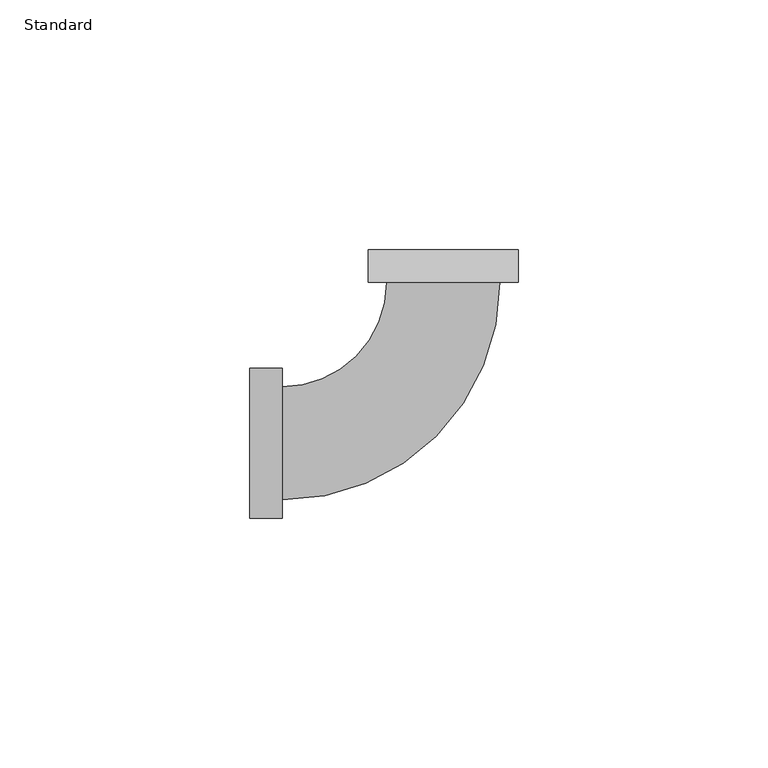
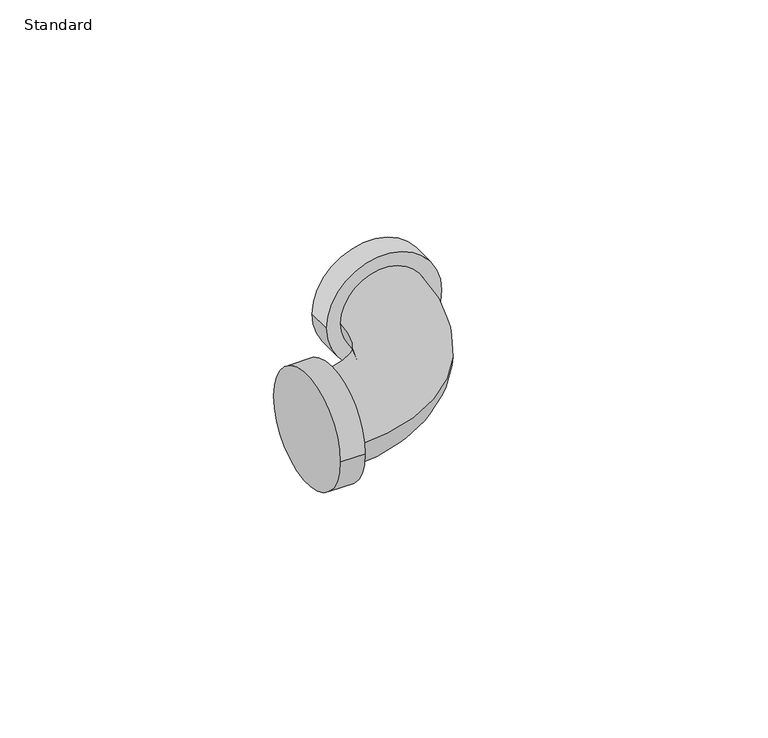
"""IFC4 building model written with IfcOpenShell, lengths in millimetres: pipe fitting geometry, Elbow_45_90-Lubrizol-CPVC-FlowGuard_MX : Standard."""

import ifcopenshell
import ifcopenshell.guid

model = None  # the IFC model being written
_history = None  # IfcOwnerHistory: only IFC2X3 demands one
_inside = {}  # id of a spatial element -> (the spatial element, [elements in it])
_under = {}  # id of a project, library or spatial element -> (it, [spatial elements below it])
_declared = {}  # id of a project -> (the project, [libraries it declares])
_typed = {}  # id of a type object -> (the type object, [elements of that type])
_made_of = {}  # id of a material, layer set ... -> (it, [elements and type objects made of it])


def new_model(schema):
    """Start an empty IFC model of exactly this schema.

    Asked for "IFC4X3", IfcOpenShell would pick the latest addendum, in which some entities
    have other attributes; the version numbers below select the first issue.
    IFC2X3 requires an IfcOwnerHistory on every rooted entity: one is made here for all.
    """
    global model, _history
    if schema == "IFC4X3":
        model = ifcopenshell.file(schema_version=(4, 3, 0, 0))
    else:
        model = ifcopenshell.file(schema=schema)
    _inside.clear()
    _under.clear()
    _declared.clear()
    _typed.clear()
    _made_of.clear()
    _history = None
    if model.schema == "IFC2X3":
        org = make("IfcOrganization", Name="unknown")
        user = make(
            "IfcPersonAndOrganization",
            ThePerson=make("IfcPerson", FamilyName="unknown"),
            TheOrganization=org,
        )
        app = make(
            "IfcApplication",
            ApplicationDeveloper=org,
            Version="unknown",
            ApplicationFullName="unknown",
            ApplicationIdentifier="unknown",
        )
        _history = make(
            "IfcOwnerHistory",
            OwningUser=user,
            OwningApplication=app,
            ChangeAction="ADDED",
            CreationDate=0,
        )
    return model


def make(cls, **values):
    """One entity of the class cls with the attributes given. An attribute that is None is left unset."""
    return model.create_entity(
        cls, **{name: value for name, value in values.items() if value is not None}
    )


def rooted(cls, **values):
    """An entity with a GlobalId (a new one), such as an element, a storey or a relation."""
    return make(cls, GlobalId=ifcopenshell.guid.new(), OwnerHistory=_history, **values)


def si_unit(unit_type, name, prefix=None):
    """IfcSIUnit, for example si_unit("LENGTHUNIT", "METRE", prefix="MILLI")."""
    return make("IfcSIUnit", UnitType=unit_type, Prefix=prefix, Name=name)


def assignment(units):
    """IfcUnitAssignment: the units of a project."""
    return None if units is None else make("IfcUnitAssignment", Units=units)


def point(xyz):
    """IfcCartesianPoint."""
    return None if xyz is None else make("IfcCartesianPoint", Coordinates=xyz)


def direction(xyz):
    """IfcDirection."""
    return None if xyz is None else make("IfcDirection", DirectionRatios=xyz)


def frame(location, z_axis=None, x_axis=None):
    """IfcAxis2Placement3D, a coordinate frame: its origin and axes. An axis left out is left unset."""
    return make(
        "IfcAxis2Placement3D",
        Location=point(location),
        Axis=direction(z_axis),
        RefDirection=direction(x_axis),
    )


def origin():
    """The frame at (0, 0, 0) with its axes left unset."""
    return frame((0.0, 0.0, 0.0))


def place(relative_to, where):
    """IfcLocalPlacement: puts the frame where relative to a parent placement (None: the world)."""
    return make(
        "IfcLocalPlacement", PlacementRelTo=relative_to, RelativePlacement=where
    )


def context(
    kind, dimensions, precision=None, world=None, true_north=None, identifier=None
):
    """IfcGeometricRepresentationContext, for example the 3D "Model" context."""
    return make(
        "IfcGeometricRepresentationContext",
        ContextIdentifier=identifier,
        ContextType=kind,
        CoordinateSpaceDimension=dimensions,
        Precision=precision,
        WorldCoordinateSystem=world,
        TrueNorth=true_north,
    )


def project(units=None, contexts=None):
    """IfcProject with its units and contexts."""
    return rooted(
        "IfcProject",
        Name="project",
        RepresentationContexts=contexts,
        UnitsInContext=assignment(units),
    )


def spatial(cls, under=None, at=None, **own):
    """A site, building, storey or space (cls), placed at a placement, below another one or the project."""
    s = rooted(cls, ObjectPlacement=at, **own)
    if under is not None:
        _under.setdefault(under.id(), (under, []))[1].append(s)
    return s


def circle_curve(where, radius):
    """IfcCircle in the frame where."""
    return make("IfcCircle", Position=where, Radius=radius)


def ellipse_curve(where, semi_axis1, semi_axis2):
    """IfcEllipse in the frame where."""
    return make(
        "IfcEllipse", Position=where, SemiAxis1=semi_axis1, SemiAxis2=semi_axis2
    )


def trimmed(basis, trim1, trim2, sense, master):
    """IfcTrimmedCurve: the piece of a basis curve between two trims."""
    return make(
        "IfcTrimmedCurve",
        BasisCurve=basis,
        Trim1=trim1,
        Trim2=trim2,
        SenseAgreement=sense,
        MasterRepresentation=master,
    )


def shape(context_of_items, identifier, shape_type, items):
    """IfcShapeRepresentation: the items that make up one representation, for example the "Body"."""
    return make(
        "IfcShapeRepresentation",
        ContextOfItems=context_of_items,
        RepresentationIdentifier=identifier,
        RepresentationType=shape_type,
        Items=items,
    )


def source(mapping_origin, context_of_items, identifier, shape_type, items):
    """IfcRepresentationMap: a shape defined once, which mapped items show again and again."""
    return make(
        "IfcRepresentationMap",
        MappingOrigin=mapping_origin,
        MappedRepresentation=shape(context_of_items, identifier, shape_type, items),
    )


def transform(
    local_origin,
    x_axis=None,
    y_axis=None,
    z_axis=None,
    scale=None,
    scale2=None,
    scale3=None,
    uniform=True,
):
    """IfcCartesianTransformationOperator3D, or its non-uniform kind. x_axis, y_axis, z_axis: its Axis1, 2, 3."""
    if uniform:
        return make(
            "IfcCartesianTransformationOperator3D",
            Axis1=direction(x_axis),
            Axis2=direction(y_axis),
            LocalOrigin=point(local_origin),
            Scale=scale,
            Axis3=direction(z_axis),
        )
    return make(
        "IfcCartesianTransformationOperator3DnonUniform",
        Axis1=direction(x_axis),
        Axis2=direction(y_axis),
        LocalOrigin=point(local_origin),
        Scale=scale,
        Axis3=direction(z_axis),
        Scale2=scale2,
        Scale3=scale3,
    )


def mapped(mapping_source, mapping_target):
    """IfcMappedItem: shows the shape of a source again, moved by a transform."""
    return make(
        "IfcMappedItem", MappingSource=mapping_source, MappingTarget=mapping_target
    )


def made_of(thing, what):
    """Note that an element or type object is made of a material, layer set ...; save() writes the relation."""
    if what is not None:
        _made_of.setdefault(what.id(), (what, []))[1].append(thing)
    return thing


def element(
    cls,
    number,
    at=None,
    inside=None,
    cuts=None,
    type_object=None,
    material=None,
    context=None,
    identifier="Body",
    shape_type=None,
    held_by="IfcProductDefinitionShape",
    body=None,
    shapes=None,
    **own,
):
    """One element of the class cls, such as IfcWall. Its Tag is "e" and its number.

    at: its placement. inside: the storey or other place that contains it. cuts: it is an
    opening in that element (IfcRelVoidsElement). A single representation is given by context,
    identifier, shape_type and body (its items); several are given by shapes. held_by: the class
    of the entity that holds the representations. save() writes the other relations.
    """
    e = rooted(cls, Tag="e%d" % number, ObjectPlacement=at, **own)
    if body is not None:
        shapes = [shape(context, identifier, shape_type, body)]
    if shapes is not None:
        e.Representation = make(held_by, Representations=shapes)
    if inside is not None:
        _inside.setdefault(inside.id(), (inside, []))[1].append(e)
    if cuts is not None:
        rooted(
            "IfcRelVoidsElement", RelatingBuildingElement=cuts, RelatedOpeningElement=e
        )
    if type_object is not None:
        _typed.setdefault(type_object.id(), (type_object, []))[1].append(e)
    return made_of(e, material)


def aggregate(whole, parts):
    """IfcRelAggregates: a whole, such as a stair, and the parts it consists of."""
    return rooted("IfcRelAggregates", RelatingObject=whole, RelatedObjects=parts)


def save(model, path):
    """Write the relations noted so far, then the file.

    IfcRelAggregates (storeys below a building ...), IfcRelContainedInSpatialStructure (elements
    in a storey), IfcRelDefinesByType, IfcRelAssociatesMaterial and IfcRelDeclares: one each for
    every whole, place, type object, material and project.
    """
    for whole, parts in _under.values():
        aggregate(whole, parts)
    for where, things in _inside.values():
        rooted(
            "IfcRelContainedInSpatialStructure",
            RelatedElements=things,
            RelatingStructure=where,
        )
    for kind, things in _typed.values():
        rooted("IfcRelDefinesByType", RelatedObjects=things, RelatingType=kind)
    for what, things in _made_of.values():
        rooted("IfcRelAssociatesMaterial", RelatedObjects=things, RelatingMaterial=what)
    for by, libraries in _declared.values():
        rooted("IfcRelDeclares", RelatingContext=by, RelatedDefinitions=libraries)
    model.write(path)


def plane_surface(at):
    """IfcPlane: the flat surface through the origin of the frame at, square to its z axis."""
    return make("IfcPlane", Position=at)


def cylinder_surface(at, radius):
    """IfcCylindricalSurface: all points at the distance radius from the z axis of the frame at."""
    return make("IfcCylindricalSurface", Position=at, Radius=radius)


def revolved_surface(curve, axis_point, axis_direction):
    """IfcSurfaceOfRevolution: the curve turned about the line through axis_point along axis_direction."""
    return make(
        "IfcSurfaceOfRevolution",
        SweptCurve=make("IfcArbitraryOpenProfileDef", ProfileType="CURVE", Curve=curve),
        AxisPosition=make("IfcAxis1Placement", Location=point(axis_point), Axis=direction(axis_direction)),
    )


def advanced_brep(points, edges, surfaces, faces):
    """IfcAdvancedBrep: a solid bounded by faces that lie on surfaces and meet in shared edges.

    An edge is (start, end): straight between two places in points (the first is 0);
    or (start, end, curve); or (start, end, curve, False) where it runs against its curve.
    A face is (place in surfaces, loops), or (place, loops, False) where it looks against
    its surface's normal. A loop lists edges by number (the first is 1), with a minus sign
    where the edge is run from its end to its start. The first loop is the outer one.
    """
    corners = [point(p) for p in points]
    vertices = [make("IfcVertexPoint", VertexGeometry=c) for c in corners]
    made = []
    for start, end, *more in edges:
        made.append(
            make(
                "IfcEdgeCurve",
                EdgeStart=vertices[start],
                EdgeEnd=vertices[end],
                EdgeGeometry=more[0] if more else make("IfcPolyline", Points=[corners[start], corners[end]]),
                SameSense=more[1] if len(more) > 1 else True,
            )
        )
    hull = []
    for where, loops, *sense in faces:
        bounds = []
        for j, loop in enumerate(loops):
            ring = [make("IfcOrientedEdge", EdgeElement=made[abs(k) - 1], Orientation=k > 0) for k in loop]
            bounds.append(
                make(
                    "IfcFaceOuterBound" if j == 0 else "IfcFaceBound",
                    Bound=make("IfcEdgeLoop", EdgeList=ring),
                    Orientation=True,
                )
            )
        hull.append(make("IfcAdvancedFace", Bounds=bounds, FaceSurface=surfaces[where], SameSense=sense[0] if sense else True))
    return make("IfcAdvancedBrep", Outer=make("IfcClosedShell", CfsFaces=hull))


def standard_6ea406a4(model_context):
    return source(origin(), model_context, "Body", "AdvancedBrep", [
        advanced_brep(
        [(-38.6940625, -15.0071094, 0.0), (-38.6940625, 15.0071094, 0.0), (-32.1940625, -15.0071094, 0.0), (-32.1940625, 15.0071094, 0.0), (-32.1940625, -11.3240625, 0.0), (-32.1940625, 11.3240625, 0.0), (-11.3240625, 32.1940625, 0.0), (11.3240625, 32.1940625, 0.0), (15.0071094, 32.1940625, 0.0), (-15.0071094, 32.1940625, 0.0), (15.0071094, 38.6940625, 0.0), (-15.0071094, 38.6940625, 0.0)],
        [
            (0, 1, circle_curve(frame((-38.6940625, 0.0, 0.0), z_axis=(-1.0, 0.0, 0.0), x_axis=(0.0, 1.0, 0.0)), 15.0071094)),
            (1, 0, circle_curve(frame((-38.6940625, 0.0, 0.0), z_axis=(-1.0, 0.0, 0.0), x_axis=(0.0, 1.0, 0.0)), 15.0071094)),
            (2, 3, circle_curve(frame((-32.1940625, 0.0, 0.0), z_axis=(1.0, 0.0, 0.0), x_axis=(0.0, 1.0, 0.0)), 15.0071094)),
            (3, 2, circle_curve(frame((-32.1940625, 0.0, 0.0), z_axis=(1.0, 0.0, 0.0), x_axis=(0.0, 1.0, 0.0)), 15.0071094)),
            (4, 5, circle_curve(frame((-32.1940625, 0.0, 0.0), z_axis=(-1.0, 0.0, 0.0), x_axis=(0.0, 1.0, 0.0)), 11.3240625)),
            (5, 4, circle_curve(frame((-32.1940625, 0.0, 0.0), z_axis=(-1.0, 0.0, 0.0), x_axis=(0.0, 1.0, 0.0)), 11.3240625)),
            (0, 2),
            (3, 1),
            (6, 5, circle_curve(frame((-32.1940625, 32.1940625, 0.0), z_axis=(0.0, 0.0, -1.0), x_axis=(0.0, -1.0, 0.0)), 20.87)),
            (4, 7, circle_curve(frame((-32.1940625, 32.1940625, 0.0), z_axis=(0.0, 0.0, 1.0), x_axis=(0.0, -1.0, 0.0)), 43.518125)),
            (7, 6, circle_curve(frame((0.0, 32.1940625, 0.0), z_axis=(0.0, -1.0, 0.0), x_axis=(-1.0, 0.0, 0.0)), 11.3240625)),
            (6, 7, circle_curve(frame((0.0, 32.1940625, 0.0), z_axis=(0.0, -1.0, 0.0), x_axis=(-1.0, 0.0, 0.0)), 11.3240625)),
            (8, 9, circle_curve(frame((0.0, 32.1940625, 0.0), z_axis=(0.0, -1.0, 0.0), x_axis=(-1.0, 0.0, 0.0)), 15.0071094)),
            (9, 8, circle_curve(frame((0.0, 32.1940625, 0.0), z_axis=(0.0, -1.0, 0.0), x_axis=(-1.0, 0.0, 0.0)), 15.0071094)),
            (10, 11, circle_curve(frame((0.0, 38.6940625, 0.0), z_axis=(0.0, 1.0, 0.0), x_axis=(-1.0, 0.0, 0.0)), 15.0071094)),
            (11, 10, circle_curve(frame((0.0, 38.6940625, 0.0), z_axis=(0.0, 1.0, 0.0), x_axis=(-1.0, 0.0, 0.0)), 15.0071094)),
            (8, 10),
            (11, 9),
        ],
        [
            plane_surface(frame((-38.6940625, 0.0, 0.0), z_axis=(-1.0, 0.0, 0.0), x_axis=(0.0, 0.0, 1.0))),
            plane_surface(frame((-32.1940625, 0.0, 0.0), z_axis=(1.0, 0.0, 0.0), x_axis=(0.0, 0.0, 1.0))),
            cylinder_surface(frame((-38.6940625, 0.0, 0.0), z_axis=(-1.0, 0.0, 0.0), x_axis=(0.0, 1.0, 0.0)), 15.0071094),
            revolved_surface(trimmed(ellipse_curve(frame((-32.1940625, 0.0, 0.0), z_axis=(-1.0, 0.0, 0.0), x_axis=(0.0, 1.0, 0.0)), 11.3240625, 11.3240625), [point((-32.1940625, -11.3240625, 0.0))], [point((-32.1940625, 11.3240625, 0.0))], True, "CARTESIAN"), (-32.1940625, 32.1940625, 0.0), (0.0, 0.0, 1.0)),
            revolved_surface(trimmed(ellipse_curve(frame((-32.1940625, 0.0, 0.0), z_axis=(-1.0, 0.0, 0.0), x_axis=(0.0, 1.0, 0.0)), 11.3240625, 11.3240625), [point((-32.1940625, 11.3240625, 0.0))], [point((-32.1940625, -11.3240625, 0.0))], True, "CARTESIAN"), (-32.1940625, 32.1940625, 0.0), (0.0, 0.0, 1.0)),
            plane_surface(frame((0.0, 32.1940625, 0.0), z_axis=(0.0, -1.0, 0.0), x_axis=(0.0, 0.0, 1.0))),
            plane_surface(frame((0.0, 38.6940625, 0.0), z_axis=(0.0, 1.0, 0.0), x_axis=(0.0, 0.0, 1.0))),
            cylinder_surface(frame((0.0, 32.1940625, 0.0), z_axis=(0.0, -1.0, 0.0), x_axis=(-1.0, 0.0, 0.0)), 15.0071094),
        ],
        [
            (0, [[1, 2]]),
            (1, [[3, 4], [5, 6]]),
            (2, [[-1, 7, -4, 8]]),
            (2, [[-2, -8, -3, -7]]),
            (3, [[9, -5, 10, 11]]),
            (4, [[-9, 12, -10, -6]]),
            (5, [[13, 14], [-11, -12]]),
            (6, [[15, 16]]),
            (7, [[-13, 17, -16, 18]]),
            (7, [[-14, -18, -15, -17]]),
        ],
    ),
    ])


if __name__ == "__main__":
    model = new_model("IFC4")
    model_context = context("Model", 3, world=origin())
    ifc_project = project(units=[si_unit("LENGTHUNIT", "METRE", prefix="MILLI")], contexts=[model_context])
    site = spatial("IfcSite", under=ifc_project)
    building = spatial("IfcBuilding", under=site)
    placement = place(None, origin())
    standard_shape = standard_6ea406a4(model_context)
    element("IfcPipeFitting", 1, ObjectType="Elbow_45_90-Lubrizol-CPVC-FlowGuard_MX : Standard", at=placement, inside=building, context=model_context, shape_type="MappedRepresentation", body=[
        mapped(standard_shape, transform((0.0, 0.0, 0.0), x_axis=(1.0, 0.0, 0.0), y_axis=(0.0, 1.0, 0.0), z_axis=(0.0, 0.0, 1.0))),
    ])
    save(model, "model.ifc")
